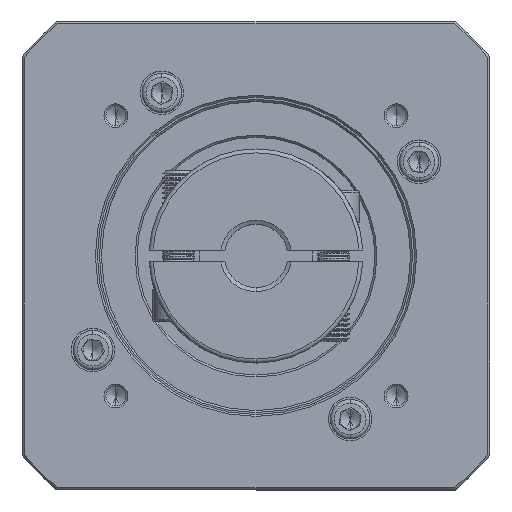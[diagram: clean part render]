
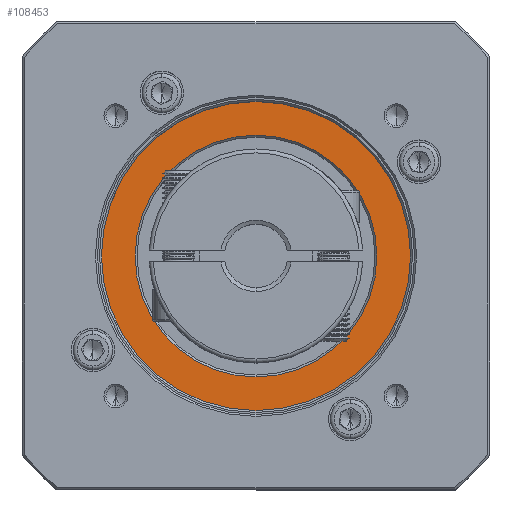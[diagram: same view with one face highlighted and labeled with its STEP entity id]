
A CAD part, top view. The second image highlights one B-rep face of the part: STEP entity #108453.
In plain terms, the highlighted planar face has unit normal (0, 0, 1).
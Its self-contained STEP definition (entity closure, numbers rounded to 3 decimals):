
#9961 = DIRECTION ( 'NONE',  ( 0., -1., 0. ) ) ;
#13871 = DIRECTION ( 'NONE',  ( 0., -1., 0. ) ) ;
#17989 = AXIS2_PLACEMENT_3D ( 'NONE', #117356, #120250, #33786 ) ;
#19326 = CARTESIAN_POINT ( 'NONE',  ( 46.003, 13.218, -44.201 ) ) ;
#19631 = AXIS2_PLACEMENT_3D ( 'NONE', #55770, #64728, #9961 ) ;
#27236 = VERTEX_POINT ( 'NONE', #19326 ) ;
#32882 = AXIS2_PLACEMENT_3D ( 'NONE', #91279, #98959, #35597 ) ;
#33786 = DIRECTION ( 'NONE',  ( 0., -1., 0. ) ) ;
#35597 = DIRECTION ( 'NONE',  ( 0., -1., 0. ) ) ;
#39450 = FACE_BOUND ( 'NONE', #47496, .T. ) ;
#40681 = CARTESIAN_POINT ( 'NONE',  ( 46.003, 43.718, -44.201 ) ) ;
#40847 = FACE_OUTER_BOUND ( 'NONE', #83468, .T. ) ;
#42624 = EDGE_CURVE ( 'NONE', #27236, #46012, #53101, .T. ) ;
#42880 = CIRCLE ( 'NONE', #58831, 39. ) ;
#46012 = VERTEX_POINT ( 'NONE', #58239 ) ;
#46635 = DIRECTION ( 'NONE',  ( 0., -1., 0. ) ) ;
#47305 = VERTEX_POINT ( 'NONE', #77015 ) ;
#47496 = EDGE_LOOP ( 'NONE', ( #84962, #73306 ) ) ;
#53101 = CIRCLE ( 'NONE', #32882, 30.5 ) ;
#55770 = CARTESIAN_POINT ( 'NONE',  ( 46.003, 43.718, -44.201 ) ) ;
#57938 = CIRCLE ( 'NONE', #58146, 39. ) ;
#58146 = AXIS2_PLACEMENT_3D ( 'NONE', #40681, #114905, #13871 ) ;
#58239 = CARTESIAN_POINT ( 'NONE',  ( 46.003, 74.218, -44.201 ) ) ;
#58831 = AXIS2_PLACEMENT_3D ( 'NONE', #75062, #76268, #46635 ) ;
#60868 = VERTEX_POINT ( 'NONE', #82686 ) ;
#60996 = EDGE_CURVE ( 'NONE', #46012, #27236, #90667, .T. ) ;
#61712 = ORIENTED_EDGE ( 'NONE', *, *, #118530, .T. ) ;
#64728 = DIRECTION ( 'NONE',  ( 0., 0., -1. ) ) ;
#73251 = PLANE ( 'NONE',  #17989 ) ;
#73306 = ORIENTED_EDGE ( 'NONE', *, *, #60996, .T. ) ;
#75062 = CARTESIAN_POINT ( 'NONE',  ( 46.003, 43.718, -44.201 ) ) ;
#76268 = DIRECTION ( 'NONE',  ( 0., 0., 1. ) ) ;
#77015 = CARTESIAN_POINT ( 'NONE',  ( 46.003, 82.718, -44.201 ) ) ;
#82686 = CARTESIAN_POINT ( 'NONE',  ( 46.003, 4.718, -44.201 ) ) ;
#83468 = EDGE_LOOP ( 'NONE', ( #87788, #61712 ) ) ;
#84962 = ORIENTED_EDGE ( 'NONE', *, *, #42624, .T. ) ;
#87788 = ORIENTED_EDGE ( 'NONE', *, *, #100349, .T. ) ;
#90667 = CIRCLE ( 'NONE', #19631, 30.5 ) ;
#91279 = CARTESIAN_POINT ( 'NONE',  ( 46.003, 43.718, -44.201 ) ) ;
#98959 = DIRECTION ( 'NONE',  ( 0., 0., -1. ) ) ;
#100349 = EDGE_CURVE ( 'NONE', #60868, #47305, #57938, .T. ) ;
#108453 = ADVANCED_FACE ( 'NONE', ( #39450, #40847 ), #73251, .T. ) ;
#114905 = DIRECTION ( 'NONE',  ( 0., 0., 1. ) ) ;
#117356 = CARTESIAN_POINT ( 'NONE',  ( 46.003, 43.718, -44.201 ) ) ;
#118530 = EDGE_CURVE ( 'NONE', #47305, #60868, #42880, .T. ) ;
#120250 = DIRECTION ( 'NONE',  ( 0., 0., 1. ) ) ;
